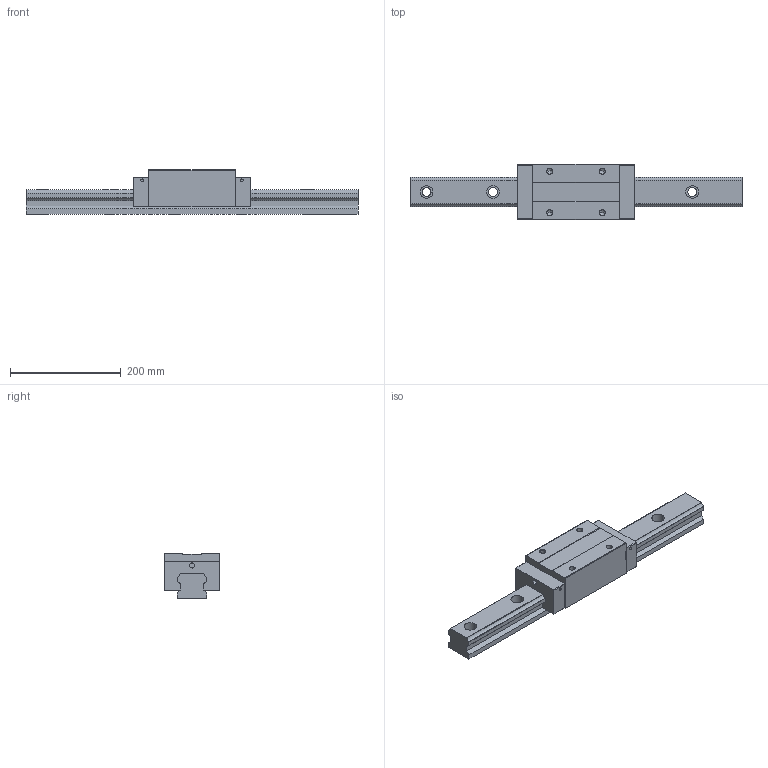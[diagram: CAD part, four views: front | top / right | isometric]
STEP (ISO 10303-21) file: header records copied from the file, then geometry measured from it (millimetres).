
FILE_DESCRIPTION (( 'STEP AP203' ), '1' );
FILE_NAME ('TRH55VE-ZN.STEP', '2024-05-20T08:50:42', ( '' ), ( '' ), 'SwSTEP 2.0', 'SolidWorks 2022', '' );
FILE_SCHEMA (( 'CONFIG_CONTROL_DESIGN' ));
Length unit declared in the file: millimetre
Products named in the file (1): TRH55VE-ZN
Bounding box: 600 x 100 x 80 mm (x, y, z)
Volume: 2206285.4 mm3; surface area: 233178.4 mm2
Topology: 2 solids, 2 shells, 175 faces, 460 edges, 296 vertices
Faces by surface type: plane 83, cylinder 76, cone 16
Entity records: 5453 total; most frequent: DIRECTION 964, CARTESIAN_POINT 924, ORIENTED_EDGE 904, EDGE_CURVE 452, AXIS2_PLACEMENT_3D 336, VERTEX_POINT 296, VECTOR 292, LINE 292
